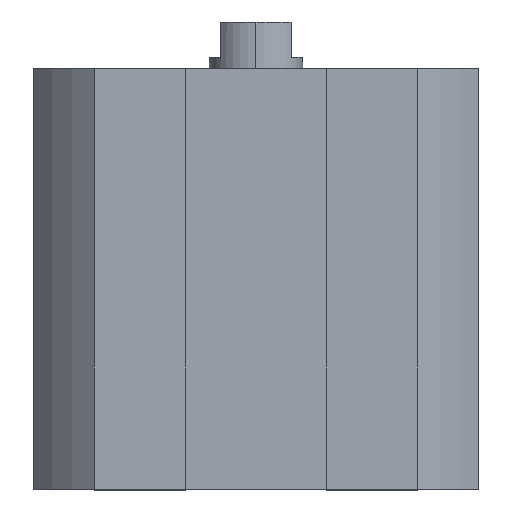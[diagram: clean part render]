
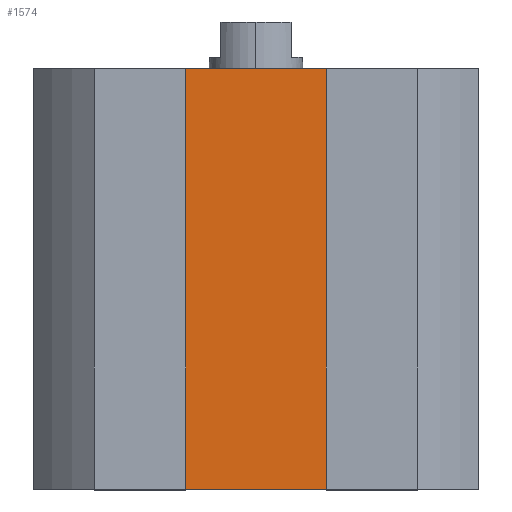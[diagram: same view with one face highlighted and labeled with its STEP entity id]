
A CAD part, top view. The second image highlights one B-rep face of the part: STEP entity #1574.
In plain terms, the highlighted planar face has unit normal (0, 0, 1).
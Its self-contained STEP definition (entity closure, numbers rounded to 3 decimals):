
#51 = ORIENTED_EDGE ( 'NONE', *, *, #111, .F. ) ;
#111 = EDGE_CURVE ( 'NONE', #944, #139, #2608, .T. ) ;
#115 = CARTESIAN_POINT ( 'NONE',  ( 7.75, -36., 12.75 ) ) ;
#131 = CARTESIAN_POINT ( 'NONE',  ( 0., -36., 12.75 ) ) ;
#139 = VERTEX_POINT ( 'NONE', #2298 ) ;
#149 = EDGE_LOOP ( 'NONE', ( #51, #455, #195, #2567 ) ) ;
#181 = DIRECTION ( 'NONE',  ( 1., 0., 0. ) ) ;
#195 = ORIENTED_EDGE ( 'NONE', *, *, #355, .T. ) ;
#347 = EDGE_CURVE ( 'NONE', #981, #139, #1801, .T. ) ;
#355 = EDGE_CURVE ( 'NONE', #2737, #981, #639, .T. ) ;
#455 = ORIENTED_EDGE ( 'NONE', *, *, #1945, .F. ) ;
#508 = DIRECTION ( 'NONE',  ( 0., 1., 0. ) ) ;
#639 = LINE ( 'NONE', #2190, #1698 ) ;
#651 = DIRECTION ( 'NONE',  ( 0., 0., 1. ) ) ;
#772 = CARTESIAN_POINT ( 'NONE',  ( -7.75, -36., 12.75 ) ) ;
#784 = AXIS2_PLACEMENT_3D ( 'NONE', #131, #651, #2322 ) ;
#944 = VERTEX_POINT ( 'NONE', #2019 ) ;
#981 = VERTEX_POINT ( 'NONE', #115 ) ;
#1186 = PLANE ( 'NONE',  #784 ) ;
#1282 = FACE_OUTER_BOUND ( 'NONE', #149, .T. ) ;
#1570 = CARTESIAN_POINT ( 'NONE',  ( 7.75, -36., 12.75 ) ) ;
#1574 = ADVANCED_FACE ( 'NONE', ( #1282 ), #1186, .T. ) ;
#1582 = VECTOR ( 'NONE', #2218, 1000. ) ;
#1698 = VECTOR ( 'NONE', #2002, 1000. ) ;
#1801 = LINE ( 'NONE', #1570, #2219 ) ;
#1945 = EDGE_CURVE ( 'NONE', #2737, #944, #2474, .T. ) ;
#2000 = CARTESIAN_POINT ( 'NONE',  ( -7.75, -36., 12.75 ) ) ;
#2002 = DIRECTION ( 'NONE',  ( 1., 0., 0. ) ) ;
#2019 = CARTESIAN_POINT ( 'NONE',  ( -7.75, 0., 12.75 ) ) ;
#2058 = VECTOR ( 'NONE', #181, 1000. ) ;
#2190 = CARTESIAN_POINT ( 'NONE',  ( 0., -36., 12.75 ) ) ;
#2218 = DIRECTION ( 'NONE',  ( 0., 1., 0. ) ) ;
#2219 = VECTOR ( 'NONE', #508, 1000. ) ;
#2298 = CARTESIAN_POINT ( 'NONE',  ( 7.75, 0., 12.75 ) ) ;
#2322 = DIRECTION ( 'NONE',  ( 1., 0., 0. ) ) ;
#2474 = LINE ( 'NONE', #2000, #1582 ) ;
#2567 = ORIENTED_EDGE ( 'NONE', *, *, #347, .T. ) ;
#2608 = LINE ( 'NONE', #2723, #2058 ) ;
#2723 = CARTESIAN_POINT ( 'NONE',  ( 0., 0., 12.75 ) ) ;
#2737 = VERTEX_POINT ( 'NONE', #772 ) ;
